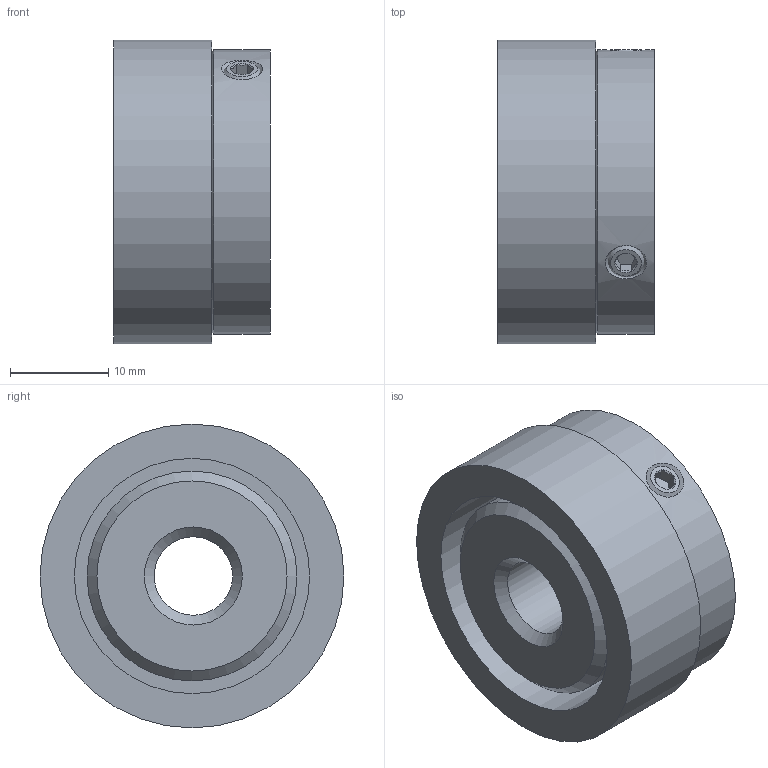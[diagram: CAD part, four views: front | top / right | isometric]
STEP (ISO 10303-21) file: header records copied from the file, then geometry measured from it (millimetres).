
FILE_DESCRIPTION (( 'STEP AP203' ), '1' );
FILE_NAME ('8.RI50.031.0800.112.STEP', '2013-07-17T13:17:12', ( 'Hodot' ), ( '' ), 'SwSTEP 2.0', 'SolidWorks 2012', '' );
FILE_SCHEMA (( 'CONFIG_CONTROL_DESIGN' ));
Length unit declared in the file: millimetre
Products named in the file (1): 8.RI50.031.0800.112
Bounding box: 16 x 31 x 31 mm (x, y, z)
Volume: 9404.4 mm3; surface area: 5390.9 mm2
Topology: 4 solids, 4 shells, 54 faces, 104 edges, 60 vertices
Faces by surface type: cone 23, plane 22, cylinder 9
Full cylindrical faces by diameter (mm): 3.3 x2, 4 x2, 8 x1, 21.4 x1, 24 x1, 29 x1, 31 x1
Entity records: 1515 total; most frequent: CARTESIAN_POINT 475, DIRECTION 206, ORIENTED_EDGE 152, AXIS2_PLACEMENT_3D 91, EDGE_LOOP 84, EDGE_CURVE 76, FACE_OUTER_BOUND 63, ADVANCED_FACE 54
